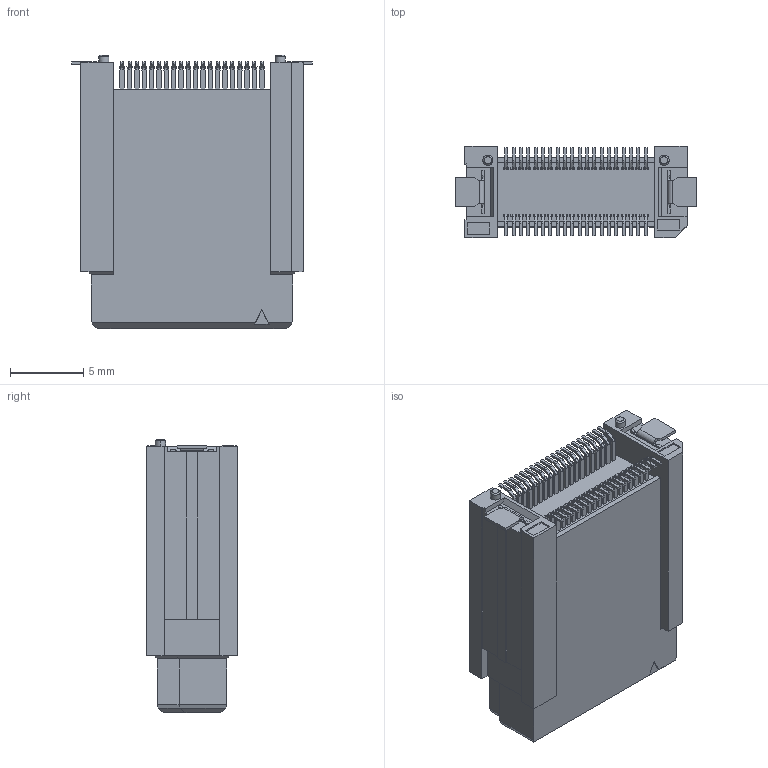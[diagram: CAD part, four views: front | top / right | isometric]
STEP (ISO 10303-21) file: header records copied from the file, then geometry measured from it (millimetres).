
FILE_DESCRIPTION(('Creo Elements/Direct Modeling STEP Export'),'2;1');
FILE_NAME('P3D464_DT11-040S-20-T.stp','2022-03-16T10:18:52',(''),(''),'Creo Elements/Direct Modeling STEP processor for AP214 (Solid Model)','Creo Elements/Direct Modeling 20.4A 18-Oct-2021 (C) Parametric Technology GmbH','');
FILE_SCHEMA(('AUTOMOTIVE_DESIGN { 1 0 10303 214 1 1 1 1 }'));
Length unit declared in the file: millimetre
Products named in the file (2): DT11-040S-20-T
Assembly tree (1 placements, depth 2):
  DT11-040S-20-T
    DT11-040S-20-T
Bounding box: 16.4 x 6.2 x 18.63 mm (x, y, z)
Volume: 1195.8 mm3; surface area: 1149 mm2
Topology: 1 solids, 1 shells, 1333 faces, 3757 edges, 2475 vertices
Faces by surface type: plane 1073, cylinder 256, cone 4
Entity records: 42420 total; most frequent: ORIENTED_EDGE 7514, CARTESIAN_POINT 7469, DIRECTION 6917, EDGE_CURVE 3757, VECTOR 3071, LINE 3071, VERTEX_POINT 2475, AXIS2_PLACEMENT_3D 1923
